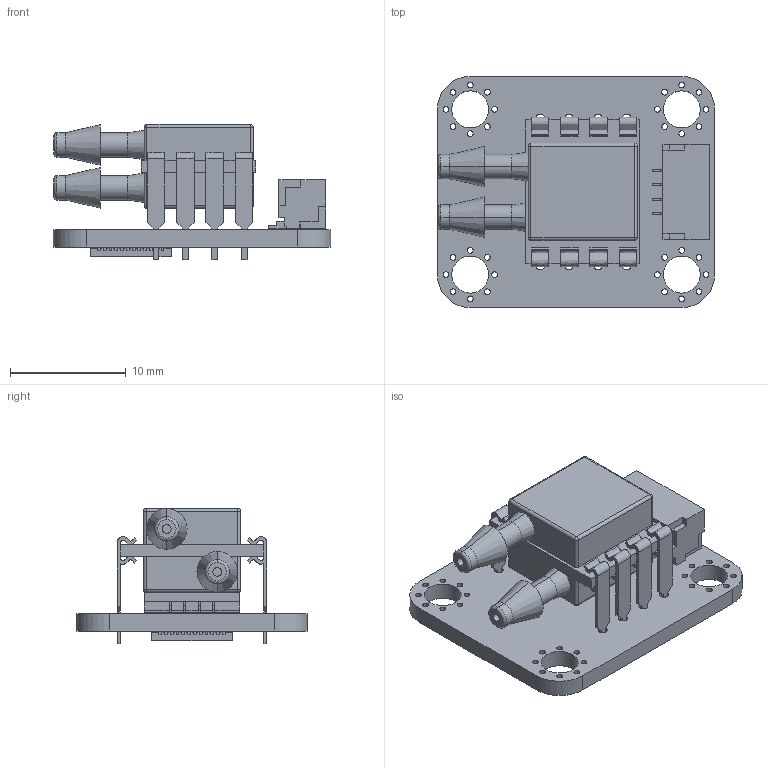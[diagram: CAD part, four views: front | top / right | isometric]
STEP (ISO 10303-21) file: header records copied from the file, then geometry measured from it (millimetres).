
FILE_DESCRIPTION(('KiCad electronic assembly'),'2;1');
FILE_NAME('Laminar-public.step','2026-09-03T10:55:02',('Pcbnew'),( 'Kicad'),'Open CASCADE STEP processor 7.9','KiCad to STEP converter' ,'Unknown');
FILE_SCHEMA(('AUTOMOTIVE_DESIGN { 1 0 10303 214 1 1 1 1 }'));
Length unit declared in the file: millimetre
Products named in the file (5): Laminar-public 1; 4525DO-DS5AI001DP; JST_GH_SM04B-GHS-TB_1x04-1MP_P1.25mm_Horizontal; QFN-48-1EP_7x7mm_P0.5mm_EP5.15x5.15mm; Laminar_PCB
Assembly tree (4 placements, depth 2):
  Laminar-public 1
    4525DO-DS5AI001DP
    JST_GH_SM04B-GHS-TB_1x04-1MP_P1.25mm_Horizontal
    QFN-48-1EP_7x7mm_P0.5mm_EP5.15x5.15mm
    Laminar_PCB
Bounding box: 24 x 20 x 11.69 mm (x, y, z)
Volume: 1500.5 mm3; surface area: 2466.8 mm2
Topology: 4 solids, 4 shells, 789 faces, 2261 edges, 1482 vertices
Faces by surface type: plane 596, cylinder 125, extrusion 48, cone 8, sphere 8, torus 4
Full cylindrical faces by diameter (mm): 0.5 x33, 0.78 x8, 3.2 x4
Entity records: 29816 total; most frequent: CARTESIAN_POINT 5258, ORIENTED_EDGE 4522, DIRECTION 3971, EDGE_CURVE 2261, VECTOR 1947, LINE 1899, VERTEX_POINT 1482, AXIS2_PLACEMENT_3D 1012
